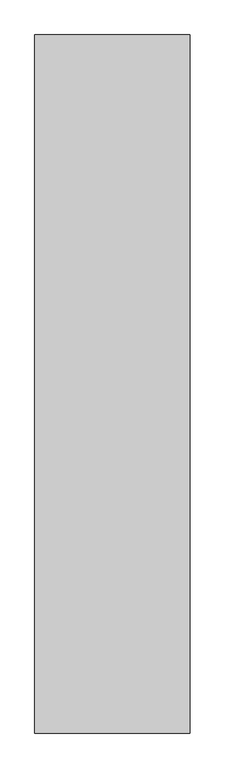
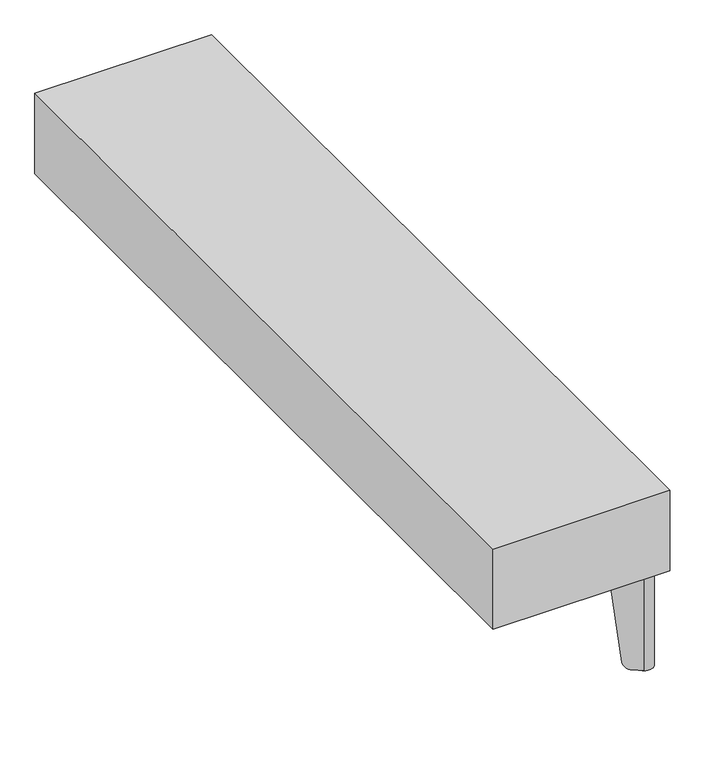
"""IFC4 building model written with IfcOpenShell, lengths in millimetres: furniture geometry, Stance_HC-Flora-Table_Straight : FAT135614E-P."""

import ifcopenshell
import ifcopenshell.guid

model = None  # the IFC model being written
_history = None  # IfcOwnerHistory: only IFC2X3 demands one
_inside = {}  # id of a spatial element -> (the spatial element, [elements in it])
_under = {}  # id of a project, library or spatial element -> (it, [spatial elements below it])
_declared = {}  # id of a project -> (the project, [libraries it declares])
_typed = {}  # id of a type object -> (the type object, [elements of that type])
_made_of = {}  # id of a material, layer set ... -> (it, [elements and type objects made of it])


def new_model(schema):
    """Start an empty IFC model of exactly this schema.

    Asked for "IFC4X3", IfcOpenShell would pick the latest addendum, in which some entities
    have other attributes; the version numbers below select the first issue.
    IFC2X3 requires an IfcOwnerHistory on every rooted entity: one is made here for all.
    """
    global model, _history
    if schema == "IFC4X3":
        model = ifcopenshell.file(schema_version=(4, 3, 0, 0))
    else:
        model = ifcopenshell.file(schema=schema)
    _inside.clear()
    _under.clear()
    _declared.clear()
    _typed.clear()
    _made_of.clear()
    _history = None
    if model.schema == "IFC2X3":
        org = make("IfcOrganization", Name="unknown")
        user = make(
            "IfcPersonAndOrganization",
            ThePerson=make("IfcPerson", FamilyName="unknown"),
            TheOrganization=org,
        )
        app = make(
            "IfcApplication",
            ApplicationDeveloper=org,
            Version="unknown",
            ApplicationFullName="unknown",
            ApplicationIdentifier="unknown",
        )
        _history = make(
            "IfcOwnerHistory",
            OwningUser=user,
            OwningApplication=app,
            ChangeAction="ADDED",
            CreationDate=0,
        )
    return model


def make(cls, **values):
    """One entity of the class cls with the attributes given. An attribute that is None is left unset."""
    return model.create_entity(
        cls, **{name: value for name, value in values.items() if value is not None}
    )


def rooted(cls, **values):
    """An entity with a GlobalId (a new one), such as an element, a storey or a relation."""
    return make(cls, GlobalId=ifcopenshell.guid.new(), OwnerHistory=_history, **values)


def si_unit(unit_type, name, prefix=None):
    """IfcSIUnit, for example si_unit("LENGTHUNIT", "METRE", prefix="MILLI")."""
    return make("IfcSIUnit", UnitType=unit_type, Prefix=prefix, Name=name)


def assignment(units):
    """IfcUnitAssignment: the units of a project."""
    return None if units is None else make("IfcUnitAssignment", Units=units)


def point(xyz):
    """IfcCartesianPoint."""
    return None if xyz is None else make("IfcCartesianPoint", Coordinates=xyz)


def direction(xyz):
    """IfcDirection."""
    return None if xyz is None else make("IfcDirection", DirectionRatios=xyz)


def frame(location, z_axis=None, x_axis=None):
    """IfcAxis2Placement3D, a coordinate frame: its origin and axes. An axis left out is left unset."""
    return make(
        "IfcAxis2Placement3D",
        Location=point(location),
        Axis=direction(z_axis),
        RefDirection=direction(x_axis),
    )


def frame_2d(location, x_axis=None):
    """IfcAxis2Placement2D, a coordinate frame in the plane: its origin and x axis."""
    return make(
        "IfcAxis2Placement2D", Location=point(location), RefDirection=direction(x_axis)
    )


def origin():
    """The frame at (0, 0, 0) with its axes left unset."""
    return frame((0.0, 0.0, 0.0))


def origin_with_axes():
    """The frame at (0, 0, 0) with the z axis (0, 0, 1) and the x axis (1, 0, 0) written out."""
    return frame((0.0, 0.0, 0.0), z_axis=(0.0, 0.0, 1.0), x_axis=(1.0, 0.0, 0.0))


def place(relative_to, where):
    """IfcLocalPlacement: puts the frame where relative to a parent placement (None: the world)."""
    return make(
        "IfcLocalPlacement", PlacementRelTo=relative_to, RelativePlacement=where
    )


def context(
    kind, dimensions, precision=None, world=None, true_north=None, identifier=None
):
    """IfcGeometricRepresentationContext, for example the 3D "Model" context."""
    return make(
        "IfcGeometricRepresentationContext",
        ContextIdentifier=identifier,
        ContextType=kind,
        CoordinateSpaceDimension=dimensions,
        Precision=precision,
        WorldCoordinateSystem=world,
        TrueNorth=true_north,
    )


def project(units=None, contexts=None):
    """IfcProject with its units and contexts."""
    return rooted(
        "IfcProject",
        Name="project",
        RepresentationContexts=contexts,
        UnitsInContext=assignment(units),
    )


def spatial(cls, under=None, at=None, **own):
    """A site, building, storey or space (cls), placed at a placement, below another one or the project."""
    s = rooted(cls, ObjectPlacement=at, **own)
    if under is not None:
        _under.setdefault(under.id(), (under, []))[1].append(s)
    return s


def polyline(points):
    """IfcPolyline through the points."""
    return make("IfcPolyline", Points=[point(p) for p in points])


def circle_curve(where, radius):
    """IfcCircle in the frame where."""
    return make("IfcCircle", Position=where, Radius=radius)


def ellipse_curve(where, semi_axis1, semi_axis2):
    """IfcEllipse in the frame where."""
    return make(
        "IfcEllipse", Position=where, SemiAxis1=semi_axis1, SemiAxis2=semi_axis2
    )


def trimmed(basis, trim1, trim2, sense, master):
    """IfcTrimmedCurve: the piece of a basis curve between two trims."""
    return make(
        "IfcTrimmedCurve",
        BasisCurve=basis,
        Trim1=trim1,
        Trim2=trim2,
        SenseAgreement=sense,
        MasterRepresentation=master,
    )


def segment(curve, same_sense, transition):
    """IfcCompositeCurveSegment."""
    return make(
        "IfcCompositeCurveSegment",
        Transition=transition,
        SameSense=same_sense,
        ParentCurve=curve,
    )


def composite_curve(segments, self_intersect=None):
    """IfcCompositeCurve: segments joined end to end."""
    return make("IfcCompositeCurve", Segments=segments, SelfIntersect=self_intersect)


def outline(outer, holes=None, kind="AREA"):
    """IfcArbitraryClosedProfileDef: a profile drawn as a closed curve; with holes, ...WithVoids."""
    if holes is None:
        return make("IfcArbitraryClosedProfileDef", ProfileType=kind, OuterCurve=outer)
    return make(
        "IfcArbitraryProfileDefWithVoids",
        ProfileType=kind,
        OuterCurve=outer,
        InnerCurves=holes,
    )


def extrude(swept, where, along, depth):
    """IfcExtrudedAreaSolid: the profile swept, set in the frame where, extruded along a direction by depth."""
    return make(
        "IfcExtrudedAreaSolid",
        SweptArea=swept,
        Position=where,
        ExtrudedDirection=direction(along),
        Depth=depth,
    )


def shape(context_of_items, identifier, shape_type, items):
    """IfcShapeRepresentation: the items that make up one representation, for example the "Body"."""
    return make(
        "IfcShapeRepresentation",
        ContextOfItems=context_of_items,
        RepresentationIdentifier=identifier,
        RepresentationType=shape_type,
        Items=items,
    )


def source(mapping_origin, context_of_items, identifier, shape_type, items):
    """IfcRepresentationMap: a shape defined once, which mapped items show again and again."""
    return make(
        "IfcRepresentationMap",
        MappingOrigin=mapping_origin,
        MappedRepresentation=shape(context_of_items, identifier, shape_type, items),
    )


def transform(
    local_origin,
    x_axis=None,
    y_axis=None,
    z_axis=None,
    scale=None,
    scale2=None,
    scale3=None,
    uniform=True,
):
    """IfcCartesianTransformationOperator3D, or its non-uniform kind. x_axis, y_axis, z_axis: its Axis1, 2, 3."""
    if uniform:
        return make(
            "IfcCartesianTransformationOperator3D",
            Axis1=direction(x_axis),
            Axis2=direction(y_axis),
            LocalOrigin=point(local_origin),
            Scale=scale,
            Axis3=direction(z_axis),
        )
    return make(
        "IfcCartesianTransformationOperator3DnonUniform",
        Axis1=direction(x_axis),
        Axis2=direction(y_axis),
        LocalOrigin=point(local_origin),
        Scale=scale,
        Axis3=direction(z_axis),
        Scale2=scale2,
        Scale3=scale3,
    )


def mapped(mapping_source, mapping_target):
    """IfcMappedItem: shows the shape of a source again, moved by a transform."""
    return make(
        "IfcMappedItem", MappingSource=mapping_source, MappingTarget=mapping_target
    )


def made_of(thing, what):
    """Note that an element or type object is made of a material, layer set ...; save() writes the relation."""
    if what is not None:
        _made_of.setdefault(what.id(), (what, []))[1].append(thing)
    return thing


def element(
    cls,
    number,
    at=None,
    inside=None,
    cuts=None,
    type_object=None,
    material=None,
    context=None,
    identifier="Body",
    shape_type=None,
    held_by="IfcProductDefinitionShape",
    body=None,
    shapes=None,
    **own,
):
    """One element of the class cls, such as IfcWall. Its Tag is "e" and its number.

    at: its placement. inside: the storey or other place that contains it. cuts: it is an
    opening in that element (IfcRelVoidsElement). A single representation is given by context,
    identifier, shape_type and body (its items); several are given by shapes. held_by: the class
    of the entity that holds the representations. save() writes the other relations.
    """
    e = rooted(cls, Tag="e%d" % number, ObjectPlacement=at, **own)
    if body is not None:
        shapes = [shape(context, identifier, shape_type, body)]
    if shapes is not None:
        e.Representation = make(held_by, Representations=shapes)
    if inside is not None:
        _inside.setdefault(inside.id(), (inside, []))[1].append(e)
    if cuts is not None:
        rooted(
            "IfcRelVoidsElement", RelatingBuildingElement=cuts, RelatedOpeningElement=e
        )
    if type_object is not None:
        _typed.setdefault(type_object.id(), (type_object, []))[1].append(e)
    return made_of(e, material)


def aggregate(whole, parts):
    """IfcRelAggregates: a whole, such as a stair, and the parts it consists of."""
    return rooted("IfcRelAggregates", RelatingObject=whole, RelatedObjects=parts)


def save(model, path):
    """Write the relations noted so far, then the file.

    IfcRelAggregates (storeys below a building ...), IfcRelContainedInSpatialStructure (elements
    in a storey), IfcRelDefinesByType, IfcRelAssociatesMaterial and IfcRelDeclares: one each for
    every whole, place, type object, material and project.
    """
    for whole, parts in _under.values():
        aggregate(whole, parts)
    for where, things in _inside.values():
        rooted(
            "IfcRelContainedInSpatialStructure",
            RelatedElements=things,
            RelatingStructure=where,
        )
    for kind, things in _typed.values():
        rooted("IfcRelDefinesByType", RelatedObjects=things, RelatingType=kind)
    for what, things in _made_of.values():
        rooted("IfcRelAssociatesMaterial", RelatedObjects=things, RelatingMaterial=what)
    for by, libraries in _declared.values():
        rooted("IfcRelDeclares", RelatingContext=by, RelatedDefinitions=libraries)
    model.write(path)


def plane_surface(at):
    """IfcPlane: the flat surface through the origin of the frame at, square to its z axis."""
    return make("IfcPlane", Position=at)


def cylinder_surface(at, radius):
    """IfcCylindricalSurface: all points at the distance radius from the z axis of the frame at."""
    return make("IfcCylindricalSurface", Position=at, Radius=radius)


def revolved_surface(curve, axis_point, axis_direction):
    """IfcSurfaceOfRevolution: the curve turned about the line through axis_point along axis_direction."""
    return make(
        "IfcSurfaceOfRevolution",
        SweptCurve=make("IfcArbitraryOpenProfileDef", ProfileType="CURVE", Curve=curve),
        AxisPosition=make("IfcAxis1Placement", Location=point(axis_point), Axis=direction(axis_direction)),
    )


def advanced_brep(points, edges, surfaces, faces):
    """IfcAdvancedBrep: a solid bounded by faces that lie on surfaces and meet in shared edges.

    An edge is (start, end): straight between two places in points (the first is 0);
    or (start, end, curve); or (start, end, curve, False) where it runs against its curve.
    A face is (place in surfaces, loops), or (place, loops, False) where it looks against
    its surface's normal. A loop lists edges by number (the first is 1), with a minus sign
    where the edge is run from its end to its start. The first loop is the outer one.
    """
    corners = [point(p) for p in points]
    vertices = [make("IfcVertexPoint", VertexGeometry=c) for c in corners]
    made = []
    for start, end, *more in edges:
        made.append(
            make(
                "IfcEdgeCurve",
                EdgeStart=vertices[start],
                EdgeEnd=vertices[end],
                EdgeGeometry=more[0] if more else make("IfcPolyline", Points=[corners[start], corners[end]]),
                SameSense=more[1] if len(more) > 1 else True,
            )
        )
    hull = []
    for where, loops, *sense in faces:
        bounds = []
        for j, loop in enumerate(loops):
            ring = [make("IfcOrientedEdge", EdgeElement=made[abs(k) - 1], Orientation=k > 0) for k in loop]
            bounds.append(
                make(
                    "IfcFaceOuterBound" if j == 0 else "IfcFaceBound",
                    Bound=make("IfcEdgeLoop", EdgeList=ring),
                    Orientation=True,
                )
            )
        hull.append(make("IfcAdvancedFace", Bounds=bounds, FaceSurface=surfaces[where], SameSense=sense[0] if sense else True))
    return make("IfcAdvancedBrep", Outer=make("IfcClosedShell", CfsFaces=hull))


def furniture_7056fe7c(model_context):
    return source(origin(), model_context, "Body", "SolidModel", [
        advanced_brep(
        [(274.3401042, -102.8613619, 193.6877233), (306.2642107, -57.26919, 193.6877233), (285.6391871, -36.6441664, 193.6877233), (240.0470178, -68.568271, 193.6877233), (241.8906556, -71.2012484, 193.6877233), (287.4828248, -39.2771437, 193.6877233), (303.6312333, -55.4255523, 193.6877233), (271.7071268, -101.0177242, 193.6877233), (274.3401042, -102.8613619, 189.1419595), (303.6312333, -55.4255523, 3.1876992), (293.5105238, -69.8793673, 3.1876992), (284.3334277, -82.9855678, 17.1280233), (287.4828248, -39.2771437, 3.1876992), (259.9228092, -58.5749494, 17.1280233), (273.0290098, -49.3978533, 3.1876992), (240.0470178, -68.568271, 189.1419334), (285.6391871, -36.6441664, 3.1876992), (270.7211121, -47.0899556, 3.1876992), (257.6149115, -56.2670517, 17.1280233), (306.2642107, -57.26919, 3.1876992), (286.6413254, -85.2934656, 17.1280233), (295.8184215, -72.187265, 3.1876992)],
        [
            (0, 1),
            (1, 2, circle_curve(frame((294.1333442, -48.7750329, 193.6877233), z_axis=(0.0, 0.0, 1.0), x_axis=(-1.0, 0.0, 0.0)), 14.8090724)),
            (2, 3),
            (3, 4),
            (4, 5),
            (5, 6, circle_curve(frame((294.1333442, -48.7750329, 193.6877233), z_axis=(0.0, 0.0, -1.0), x_axis=(-1.0, 0.0, 0.0)), 11.5947965)),
            (6, 7),
            (7, 0),
            (7, 8),
            (8, 0),
            (6, 9),
            (9, 10),
            (10, 11, ellipse_curve(frame((293.5105238, -69.8793673, 19.0626992), z_axis=(-0.8191509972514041, 0.5735779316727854, 0.0), x_axis=(-0.5735779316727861, -0.8191509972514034, 0.0)), 16.1198923, 15.875)),
            (11, 7),
            (5, 12),
            (12, 9, circle_curve(frame((294.1333442, -48.7750329, 3.1876992), z_axis=(0.0, 0.0, -1.0), x_axis=(-1.0, 0.0, 0.0)), 11.5947965)),
            (4, 13),
            (13, 14, ellipse_curve(frame((273.0290098, -49.3978533, 19.0626992), z_axis=(0.5735779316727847, -0.8191509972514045, 0.0), x_axis=(0.8191509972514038, 0.5735779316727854, 0.0)), 16.1198923, 15.875)),
            (14, 12),
            (3, 15),
            (15, 4),
            (2, 16),
            (16, 17),
            (17, 18, ellipse_curve(frame((270.7211121, -47.0899556, 19.0626992), z_axis=(-0.5735779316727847, 0.8191509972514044, 0.0), x_axis=(0.8191509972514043, 0.573577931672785, 0.0)), 16.1198923, 15.875)),
            (18, 15),
            (1, 19),
            (19, 16, circle_curve(frame((294.1333442, -48.7750329, 3.1876992), z_axis=(0.0, 0.0, 1.0), x_axis=(-1.0, 0.0, 0.0)), 14.8090724)),
            (8, 20),
            (20, 21, ellipse_curve(frame((295.8184215, -72.187265, 19.0626992), z_axis=(0.8191509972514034, -0.5735779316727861, 0.0), x_axis=(-0.5735779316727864, -0.8191509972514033, 0.0)), 16.1198923, 15.875)),
            (21, 19),
            (18, 13),
            (11, 20),
            (21, 10),
            (14, 17),
        ],
        [
            plane_surface(frame((271.7071268, -101.0177242, 193.6877233), z_axis=(0.0, 0.0, 1.0000000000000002), x_axis=(-0.8191509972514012, 0.5735779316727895, 0.0))),
            plane_surface(frame((274.3401042, -102.8613619, 193.6877233), z_axis=(-0.5735779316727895, -0.8191509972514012, 0.0), x_axis=(0.0, 0.0, -1.0))),
            plane_surface(frame((271.7071268, -101.0177242, 193.6877233), z_axis=(-0.8191509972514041, 0.5735779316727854, 0.0), x_axis=(0.0, 0.0, -1.0))),
            revolved_surface(polyline([(282.53854770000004, -48.7750329, 3.1876992), (282.53854770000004, -48.7750329, 193.6877233)]), (294.1333442, -48.7750329, 0.0), (0.0, 0.0, -1.0)),
            plane_surface(frame((287.4828248, -39.2771437, 193.6877233), z_axis=(0.5735779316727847, -0.8191509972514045, 0.0), x_axis=(0.0, 0.0, -1.0))),
            plane_surface(frame((241.8906556, -71.2012484, 193.6877233), z_axis=(-0.8191509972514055, -0.5735779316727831, 0.0), x_axis=(0.0, 0.0, -1.0))),
            plane_surface(frame((240.0470178, -68.568271, 193.6877233), z_axis=(-0.5735779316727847, 0.8191509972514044, 0.0), x_axis=(0.0, 0.0, -1.0))),
            cylinder_surface(frame((294.1333442, -48.7750329, 0.0), z_axis=(0.0, 0.0, 1.0), x_axis=(-1.0, 0.0, 0.0)), 14.8090724),
            plane_surface(frame((306.2642107, -57.26919, 193.6877233), z_axis=(0.8191509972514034, -0.5735779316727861, 0.0), x_axis=(0.0, 0.0, -1.0))),
            plane_surface(frame((251.7311084, -50.3832485, 17.1280233), z_axis=(-0.7018361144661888, -0.7018361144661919, -0.12186934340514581), x_axis=(0.7071067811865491, -0.707106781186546, 0.0))),
            plane_surface(frame((284.2214639, -17.8928931, 3.1876992), z_axis=(0.0, 0.0, -1.0), x_axis=(0.707106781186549, -0.707106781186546, 0.0))),
            cylinder_surface(frame((303.6583998, -80.0272433, 19.0626992), z_axis=(0.7071067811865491, -0.707106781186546, 0.0), x_axis=(-0.707106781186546, -0.7071067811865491, 0.0)), 15.875),
        ],
        [
            (0, [[1, 2, 3, 4, 5, 6, 7, 8]]),
            (1, [[9, 10, -8]]),
            (2, [[11, 12, 13, 14, -7]]),
            (3, [[15, 16, -11, -6]]),
            (4, [[17, 18, 19, -15, -5]]),
            (5, [[20, 21, -4]]),
            (6, [[22, 23, 24, 25, -20, -3]]),
            (7, [[26, 27, -22, -2]]),
            (8, [[-10, 28, 29, 30, -26, -1]]),
            (9, [[-17, -21, -25, 31]]),
            (9, [[-28, -9, -14, 32]]),
            (10, [[-23, -27, -30, 33, -12, -16, -19, 34]]),
            (11, [[-13, -33, -29, -32]]),
            (11, [[-24, -34, -18, -31]]),
        ],
    ),
        extrude(outline(composite_curve([segment(trimmed(circle_curve(frame_2d((292.1, -50.8)), 11.1125), [point((303.2125, -50.8))], [point((280.9875, -50.8))], False, "CARTESIAN"), True, "CONTINUOUS"), segment(trimmed(circle_curve(frame_2d((292.1, -50.8)), 11.1125), [point((280.9875, -50.8))], [point((303.2125, -50.8))], False, "CARTESIAN"), True, "CONTINUOUS")], self_intersect=False)), origin_with_axes(), (0.0, 0.0, 1.0), 3.175),
        extrude(outline(composite_curve([segment(trimmed(circle_curve(frame_2d((295.4524523, -47.4559239)), 15.8749964), [point((294.3450687, -31.6195983))], [point((311.288778, -48.5633073))], False, "CARTESIAN"), True, "CONTINUOUS"), segment(polyline([(311.288778, -48.5633073), (304.2918062, -148.6247029), (274.4414324, -178.4750713), (190.4983323, -152.4100523), (164.4332978, -68.4669439), (194.2836699, -38.6165718), (294.3450687, -31.6195983)]), True, "CONTINUOUS")], self_intersect=False)), frame((0.0, 0.0, 193.6877233), z_axis=(0.0, 0.0, 1.0), x_axis=(1.0, 0.0, 0.0)), (0.0, 0.0, 1.0), 4.7751809),
        advanced_brep(
        [(274.3401042, -1344.9386381, 193.6877233), (271.7071268, -1346.7822758, 193.6877233), (303.6312333, -1392.3744477, 193.6877233), (287.4828248, -1408.5228563, 193.6877233), (241.8906556, -1376.5987516, 193.6877233), (240.0470178, -1379.231729, 193.6877233), (285.6391871, -1411.1558336, 193.6877233), (306.2642107, -1390.53081, 193.6877233), (274.3401042, -1344.9386381, 189.1419595), (284.3334277, -1364.8144322, 17.1280233), (293.5105238, -1377.9206327, 3.1876992), (303.6312333, -1392.3744477, 3.1876992), (287.4828248, -1408.5228563, 3.1876992), (273.0290098, -1398.4021467, 3.1876992), (259.9228092, -1389.2250506, 17.1280233), (240.0470178, -1379.231729, 189.1419334), (257.6149115, -1391.5329483, 17.1280233), (270.7211121, -1400.7100444, 3.1876992), (285.6391871, -1411.1558336, 3.1876992), (306.2642107, -1390.53081, 3.1876992), (295.8184215, -1375.612735, 3.1876992), (286.6413254, -1362.5065344, 17.1280233)],
        [
            (0, 1),
            (1, 2),
            (2, 3, circle_curve(frame((294.1333442, -1399.0249671, 193.6877233), z_axis=(0.0, 0.0, -1.0), x_axis=(-1.0, 0.0, 0.0)), 11.5947965)),
            (3, 4),
            (4, 5),
            (5, 6),
            (6, 7, circle_curve(frame((294.1333442, -1399.0249671, 193.6877233), z_axis=(0.0, 0.0, 1.0), x_axis=(-1.0, 0.0, 0.0)), 14.8090724)),
            (7, 0),
            (0, 8),
            (8, 1),
            (1, 9),
            (9, 10, ellipse_curve(frame((293.5105238, -1377.9206327, 19.0626992), z_axis=(-0.8191509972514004, -0.5735779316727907, 0.0), x_axis=(-0.5735779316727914, 0.8191509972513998, 0.0)), 16.1198923, 15.875)),
            (10, 11),
            (11, 2),
            (11, 12, circle_curve(frame((294.1333442, -1399.0249671, 3.1876992), z_axis=(0.0, 0.0, -1.0), x_axis=(-1.0, 0.0, 0.0)), 11.5947965)),
            (12, 3),
            (12, 13),
            (13, 14, ellipse_curve(frame((273.0290098, -1398.4021467, 19.0626992), z_axis=(0.5735779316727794, 0.8191509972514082, 0.0), x_axis=(0.8191509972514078, -0.5735779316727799, 0.0)), 16.1198923, 15.875)),
            (14, 4),
            (4, 15),
            (15, 5),
            (15, 16),
            (16, 17, ellipse_curve(frame((270.7211121, -1400.7100444, 19.0626992), z_axis=(-0.5735779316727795, -0.8191509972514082, 0.0), x_axis=(0.8191509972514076, -0.5735779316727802, 0.0)), 16.1198923, 15.875)),
            (17, 18),
            (18, 6),
            (18, 19, circle_curve(frame((294.1333442, -1399.0249671, 3.1876992), z_axis=(0.0, 0.0, 1.0), x_axis=(-1.0, 0.0, 0.0)), 14.8090724)),
            (19, 7),
            (19, 20),
            (20, 21, ellipse_curve(frame((295.8184215, -1375.612735, 19.0626992), z_axis=(0.8191509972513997, 0.5735779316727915, 0.0), x_axis=(-0.573577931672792, 0.8191509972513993, 0.0)), 16.1198923, 15.875)),
            (21, 8),
            (14, 16),
            (21, 9),
            (17, 13),
            (10, 20),
        ],
        [
            plane_surface(frame((271.7071268, -1346.7822758, 193.6877233), z_axis=(0.0, 0.0, 0.9999999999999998), x_axis=(-0.8191509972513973, -0.5735779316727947, 0.0))),
            plane_surface(frame((274.3401042, -1344.9386381, 193.6877233), z_axis=(-0.5735779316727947, 0.8191509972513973, 0.0), x_axis=(0.0, 0.0, -1.0))),
            plane_surface(frame((271.7071268, -1346.7822758, 193.6877233), z_axis=(-0.8191509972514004, -0.5735779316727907, 0.0), x_axis=(0.0, 0.0, -1.0))),
            revolved_surface(polyline([(282.53854770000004, -1399.0249671, 3.1876992), (282.53854770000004, -1399.0249671, 193.6877233)]), (294.1333442, -1399.0249671, 0.0), (0.0, 0.0, -1.0)),
            plane_surface(frame((287.4828248, -1408.5228563, 193.6877233), z_axis=(0.5735779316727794, 0.8191509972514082, 0.0), x_axis=(0.0, 0.0, -1.0))),
            plane_surface(frame((241.8906556, -1376.5987516, 193.6877233), z_axis=(-0.8191509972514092, 0.5735779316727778, 0.0), x_axis=(0.0, 0.0, -1.0))),
            plane_surface(frame((240.0470178, -1379.231729, 193.6877233), z_axis=(-0.5735779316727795, -0.8191509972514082, 0.0), x_axis=(0.0, 0.0, -1.0))),
            cylinder_surface(frame((294.1333442, -1399.0249671, 0.0), z_axis=(0.0, 0.0, 1.0), x_axis=(-1.0, 0.0, 0.0)), 14.8090724),
            plane_surface(frame((306.2642107, -1390.53081, 193.6877233), z_axis=(0.8191509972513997, 0.5735779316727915, 0.0), x_axis=(0.0, 0.0, -1.0))),
            plane_surface(frame((251.7311084, -1397.4167515, 17.1280233), z_axis=(-0.7018361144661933, 0.7018361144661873, -0.12186934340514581), x_axis=(0.7071067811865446, 0.7071067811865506, 0.0))),
            plane_surface(frame((284.2214639, -1429.9071069, 3.1876992), z_axis=(0.0, 0.0, -1.0), x_axis=(0.7071067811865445, 0.7071067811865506, 0.0))),
            cylinder_surface(frame((303.6583998, -1367.7727567, 19.0626992), z_axis=(0.7071067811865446, 0.7071067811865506, 0.0), x_axis=(-0.7071067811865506, 0.7071067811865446, 0.0)), 15.875),
        ],
        [
            (0, [[1, 2, 3, 4, 5, 6, 7, 8]]),
            (1, [[-1, 9, 10]]),
            (2, [[-2, 11, 12, 13, 14]]),
            (3, [[-3, -14, 15, 16]]),
            (4, [[-4, -16, 17, 18, 19]]),
            (5, [[-5, 20, 21]]),
            (6, [[-6, -21, 22, 23, 24, 25]]),
            (7, [[-7, -25, 26, 27]]),
            (8, [[-8, -27, 28, 29, 30, -9]]),
            (9, [[31, -22, -20, -19]]),
            (9, [[32, -11, -10, -30]]),
            (10, [[33, -17, -15, -13, 34, -28, -26, -24]]),
            (11, [[-31, -18, -33, -23]]),
            (11, [[-32, -29, -34, -12]]),
        ],
    ),
        extrude(outline(composite_curve([segment(trimmed(circle_curve(frame_2d((292.1, -1397.0)), 11.1125), [point((303.2125, -1397.0))], [point((280.9875, -1397.0))], False, "CARTESIAN"), True, "CONTINUOUS"), segment(trimmed(circle_curve(frame_2d((292.1, -1397.0)), 11.1125), [point((280.9875, -1397.0))], [point((303.2125, -1397.0))], False, "CARTESIAN"), True, "CONTINUOUS")], self_intersect=False)), origin_with_axes(), (0.0, 0.0, 1.0), 3.175),
        extrude(outline(composite_curve([segment(polyline([(294.3450687, -1416.1804017), (194.2836699, -1409.1834282), (164.4332978, -1379.3330561), (190.4983323, -1295.3899477), (274.4414324, -1269.3249287), (304.2918062, -1299.1752971), (311.288778, -1399.2366927)]), True, "CONTINUOUS"), segment(trimmed(circle_curve(frame_2d((295.4524523, -1400.3440761)), 15.8749964), [point((311.288778, -1399.2366927))], [point((294.3450687, -1416.1804017))], False, "CARTESIAN"), True, "CONTINUOUS")], self_intersect=False)), frame((0.0, 0.0, 193.6877233), z_axis=(0.0, 0.0, 1.0), x_axis=(1.0, 0.0, 0.0)), (0.0, 0.0, 1.0), 4.7751809),
        extrude(outline(polyline([(317.5, -11.1125), (317.5, -1436.6875), (0.0, -1436.6875), (0.0, -11.1125), (317.5, -11.1125)])), frame((0.0, 0.0, 196.85), z_axis=(0.0, 0.0, 1.0), x_axis=(1.0, 0.0, 0.0)), (0.0, 0.0, 1.0), 152.399991),
    ])


if __name__ == "__main__":
    model = new_model("IFC4")
    model_context = context("Model", 3, world=origin())
    ifc_project = project(units=[si_unit("LENGTHUNIT", "METRE", prefix="MILLI")], contexts=[model_context])
    site = spatial("IfcSite", under=ifc_project)
    building = spatial("IfcBuilding", under=site)
    placement = place(None, origin())
    furniture_shape = furniture_7056fe7c(model_context)
    element("IfcFurniture", 1, ObjectType="Stance_HC-Flora-Table_Straight : FAT135614E-P", at=placement, inside=building, context=model_context, shape_type="MappedRepresentation", body=[
        mapped(furniture_shape, transform((0.0, 0.0, 0.0), x_axis=(1.0, 0.0, 0.0), y_axis=(0.0, 1.0, 0.0), z_axis=(0.0, 0.0, 1.0))),
    ])
    save(model, "model.ifc")
